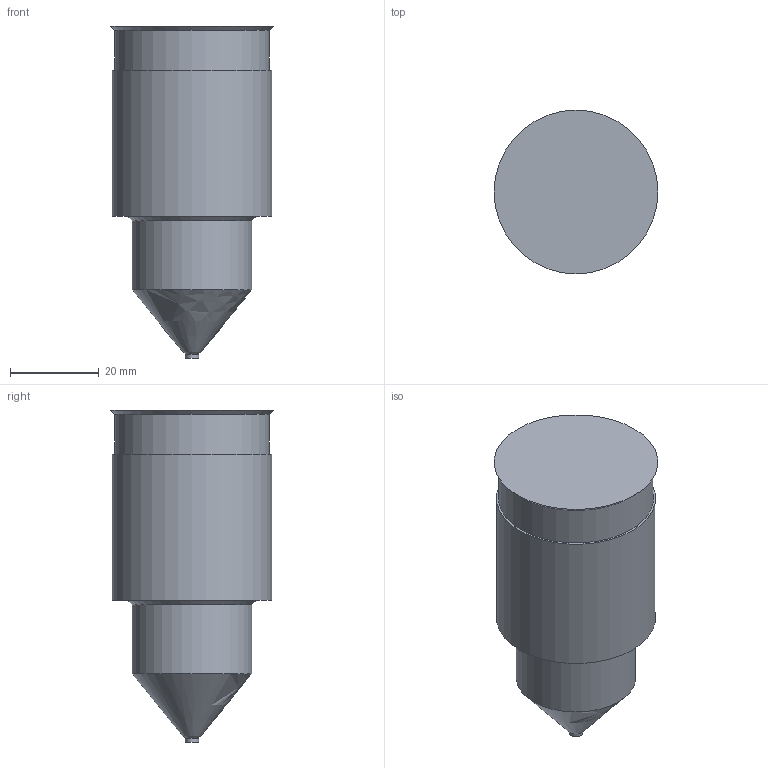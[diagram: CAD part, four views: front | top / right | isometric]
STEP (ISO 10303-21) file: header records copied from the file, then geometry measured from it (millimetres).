
FILE_DESCRIPTION(('STEP AP214'),'1');
FILE_NAME('SEDE IPM400-A.stp','2018-06-13T06:18:21',(' '),(' '),'Spatial InterOp 3D',' ',' ');
FILE_SCHEMA(('AUTOMOTIVE_DESIGN { 1 0 10303 214 1 1 1 1 }'));
Length unit declared in the file: millimetre
Products named in the file (1): 1
Bounding box: 37 x 37 x 75 mm (x, y, z)
Volume: 55994.6 mm3; surface area: 8729.3 mm2
Topology: 1 solids, 1 shells, 11 faces, 17 edges, 10 vertices
Faces by surface type: cylinder 4, plane 4, cone 2, revolution 1
Full cylindrical faces by diameter (mm): 3 x1, 27 x1, 35 x1, 36 x1
Entity records: 325 total; most frequent: DIRECTION 43, CARTESIAN_POINT 39, AXIS2_PLACEMENT_3D 21, EDGE_LOOP 20, ORIENTED_EDGE 20, FACE_OUTER_BOUND 16, STYLED_ITEM 11, PRESENTATION_STYLE_ASSIGNMENT 11
